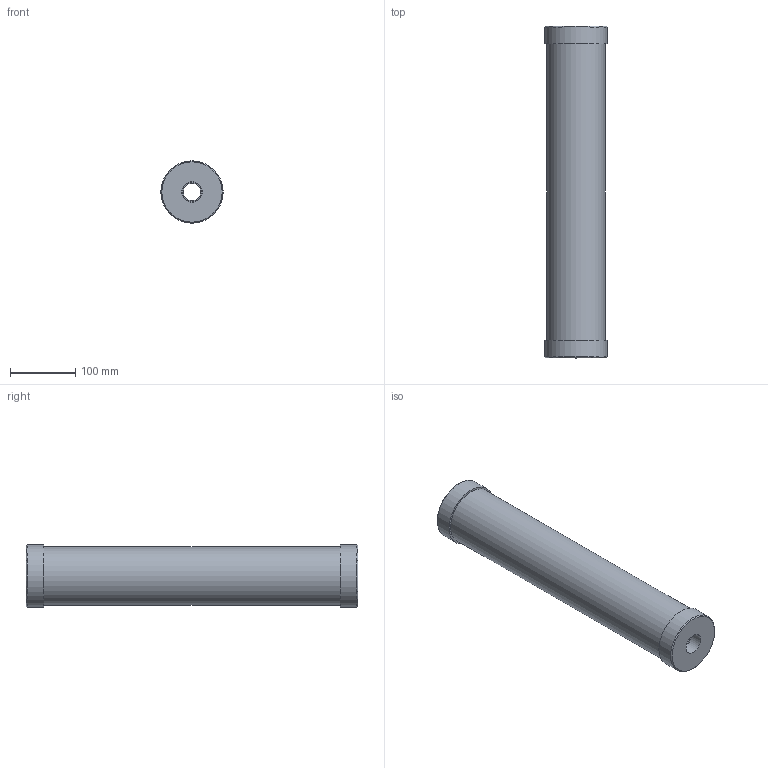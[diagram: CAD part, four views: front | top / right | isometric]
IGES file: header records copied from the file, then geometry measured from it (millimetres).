
Start section: SolidWorks IGES file using analytic representation for surfaces
Global section: file name: F:\Griffco-Valve\Griffco_current-projects\GV_web-files_2015\CAL cylinders\CC2000_P_BSPT.IGS; native system: SolidWorks 2014; preprocessor: SolidWorks 2014; author: Dan; date: 160321.043812; units: inch
Bounding box: 95.25 x 508 x 95.25 mm (x, y, z)
Surface area: 280781.8 mm2 (no closed solid volume)
Topology: 0 solids, 0 shells, 18 faces, 47 edges, 37 vertices
Faces by surface type: revolution 10, bspline 8
